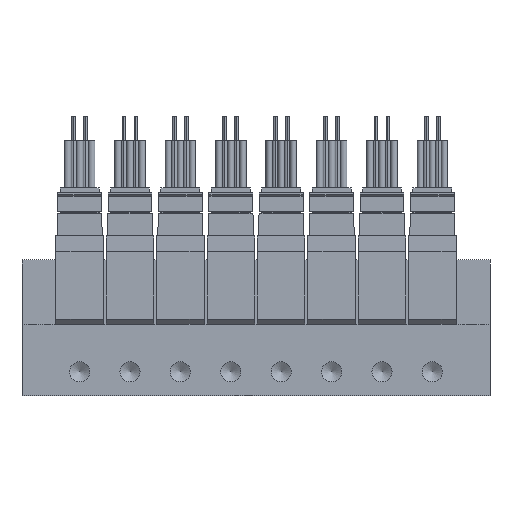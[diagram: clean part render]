
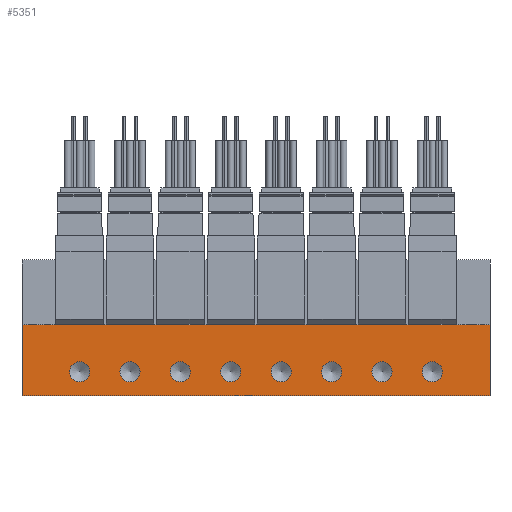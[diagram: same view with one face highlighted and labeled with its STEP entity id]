
A CAD part, front view. The second image highlights one B-rep face of the part: STEP entity #5351.
In plain terms, the highlighted planar face has unit normal (0, -1, 0).
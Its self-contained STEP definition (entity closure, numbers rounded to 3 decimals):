
#5351=ADVANCED_FACE('',(#8630,#8631,#8632,#8633,#8634,#8635,#8636,#8637,#8638),#8639,.F.);
#8630=FACE_BOUND('',#15382,.T.);
#8631=FACE_BOUND('',#15383,.T.);
#8632=FACE_BOUND('',#15384,.T.);
#8633=FACE_BOUND('',#15385,.T.);
#8634=FACE_BOUND('',#15386,.T.);
#8635=FACE_BOUND('',#15387,.T.);
#8636=FACE_BOUND('',#15388,.T.);
#8637=FACE_BOUND('',#15389,.T.);
#8638=FACE_OUTER_BOUND('',#15390,.T.);
#8639=PLANE('',#15391);
#15382=EDGE_LOOP('',(#23977));
#15383=EDGE_LOOP('',(#23978));
#15384=EDGE_LOOP('',(#23979));
#15385=EDGE_LOOP('',(#23980));
#15386=EDGE_LOOP('',(#23981));
#15387=EDGE_LOOP('',(#23982));
#15388=EDGE_LOOP('',(#23983));
#15389=EDGE_LOOP('',(#23984));
#15390=EDGE_LOOP('',(#23985,#23986,#23987,#23988));
#15391=AXIS2_PLACEMENT_3D('',#23989,#23990,#23991);
#23977=ORIENTED_EDGE('',*,*,#49664,.F.);
#23978=ORIENTED_EDGE('',*,*,#49665,.F.);
#23979=ORIENTED_EDGE('',*,*,#49666,.F.);
#23980=ORIENTED_EDGE('',*,*,#49667,.F.);
#23981=ORIENTED_EDGE('',*,*,#49668,.F.);
#23982=ORIENTED_EDGE('',*,*,#49669,.F.);
#23983=ORIENTED_EDGE('',*,*,#49670,.F.);
#23984=ORIENTED_EDGE('',*,*,#49671,.F.);
#23985=ORIENTED_EDGE('',*,*,#49659,.F.);
#23986=ORIENTED_EDGE('',*,*,#49672,.F.);
#23987=ORIENTED_EDGE('',*,*,#49624,.T.);
#23988=ORIENTED_EDGE('',*,*,#49663,.T.);
#23989=CARTESIAN_POINT('',(-97.5,0.,14.8));
#23990=DIRECTION('',(0.0,1.0,0.));
#23991=DIRECTION('',(0.0,0.,1.0));
#49624=EDGE_CURVE('',#57996,#57994,#57997,.T.);
#49659=EDGE_CURVE('',#58059,#58061,#58062,.T.);
#49663=EDGE_CURVE('',#57994,#58061,#58068,.T.);
#49664=EDGE_CURVE('',#58069,#58069,#58070,.T.);
#49665=EDGE_CURVE('',#58071,#58071,#58072,.T.);
#49666=EDGE_CURVE('',#58073,#58073,#58074,.T.);
#49667=EDGE_CURVE('',#58075,#58075,#58076,.T.);
#49668=EDGE_CURVE('',#58077,#58077,#58078,.T.);
#49669=EDGE_CURVE('',#58079,#58079,#58080,.T.);
#49670=EDGE_CURVE('',#58081,#58081,#58082,.T.);
#49671=EDGE_CURVE('',#58083,#58083,#58084,.T.);
#49672=EDGE_CURVE('',#57996,#58059,#58085,.T.);
#57994=VERTEX_POINT('',#72136);
#57996=VERTEX_POINT('',#72139);
#57997=LINE('',#72140,#72141);
#58059=VERTEX_POINT('',#72218);
#58061=VERTEX_POINT('',#72221);
#58062=LINE('',#72222,#72223);
#58068=LINE('',#72230,#72231);
#58069=VERTEX_POINT('',#72232);
#58070=CIRCLE('',#72233,2.1);
#58071=VERTEX_POINT('',#72234);
#58072=CIRCLE('',#72235,2.1);
#58073=VERTEX_POINT('',#72236);
#58074=CIRCLE('',#72237,2.1);
#58075=VERTEX_POINT('',#72238);
#58076=CIRCLE('',#72239,2.1);
#58077=VERTEX_POINT('',#72240);
#58078=CIRCLE('',#72241,2.1);
#58079=VERTEX_POINT('',#72242);
#58080=CIRCLE('',#72243,2.1);
#58081=VERTEX_POINT('',#72244);
#58082=CIRCLE('',#72245,2.1);
#58083=VERTEX_POINT('',#72246);
#58084=CIRCLE('',#72247,2.1);
#58085=LINE('',#72248,#72249);
#72136=CARTESIAN_POINT('',(-97.5,0.0,0.0));
#72139=CARTESIAN_POINT('',(-97.5,0.,14.8));
#72140=CARTESIAN_POINT('',(-97.5,0.,14.8));
#72141=VECTOR('',#92355,1.0);
#72218=CARTESIAN_POINT('',(0.0,0.,14.8));
#72221=CARTESIAN_POINT('',(0.0,0.0,0.0));
#72222=CARTESIAN_POINT('',(0.0,0.,14.8));
#72223=VECTOR('',#92426,1.0);
#72230=CARTESIAN_POINT('',(-97.5,0.0,0.0));
#72231=VECTOR('',#92434,1.0);
#72232=CARTESIAN_POINT('',(-85.5,0.,2.9));
#72233=AXIS2_PLACEMENT_3D('',#92435,#92436,#92437);
#72234=CARTESIAN_POINT('',(-75.0,0.,2.9));
#72235=AXIS2_PLACEMENT_3D('',#92438,#92439,#92440);
#72236=CARTESIAN_POINT('',(-64.5,0.,2.9));
#72237=AXIS2_PLACEMENT_3D('',#92441,#92442,#92443);
#72238=CARTESIAN_POINT('',(-54.0,0.,2.9));
#72239=AXIS2_PLACEMENT_3D('',#92444,#92445,#92446);
#72240=CARTESIAN_POINT('',(-43.5,0.,2.9));
#72241=AXIS2_PLACEMENT_3D('',#92447,#92448,#92449);
#72242=CARTESIAN_POINT('',(-33.0,0.,2.9));
#72243=AXIS2_PLACEMENT_3D('',#92450,#92451,#92452);
#72244=CARTESIAN_POINT('',(-22.5,0.,2.9));
#72245=AXIS2_PLACEMENT_3D('',#92453,#92454,#92455);
#72246=CARTESIAN_POINT('',(-12.0,0.,2.9));
#72247=AXIS2_PLACEMENT_3D('',#92456,#92457,#92458);
#72248=CARTESIAN_POINT('',(-97.5,0.,14.8));
#72249=VECTOR('',#92459,1.0);
#92355=DIRECTION('',(0.0,0.,-1.0));
#92426=DIRECTION('',(0.0,0.,-1.0));
#92434=DIRECTION('',(1.0,0.0,0.0));
#92435=CARTESIAN_POINT('',(-85.5,0.0,5.0));
#92436=DIRECTION('',(0.0,-1.0,0.));
#92437=DIRECTION('',(0.0,0.,-1.0));
#92438=CARTESIAN_POINT('',(-75.0,0.0,5.0));
#92439=DIRECTION('',(0.0,-1.0,0.));
#92440=DIRECTION('',(0.0,0.,-1.0));
#92441=CARTESIAN_POINT('',(-64.5,0.0,5.0));
#92442=DIRECTION('',(0.0,-1.0,0.));
#92443=DIRECTION('',(0.0,0.,-1.0));
#92444=CARTESIAN_POINT('',(-54.0,0.0,5.0));
#92445=DIRECTION('',(0.0,-1.0,0.));
#92446=DIRECTION('',(0.0,0.,-1.0));
#92447=CARTESIAN_POINT('',(-43.5,0.0,5.0));
#92448=DIRECTION('',(0.0,-1.0,0.));
#92449=DIRECTION('',(0.0,0.,-1.0));
#92450=CARTESIAN_POINT('',(-33.0,0.0,5.0));
#92451=DIRECTION('',(0.0,-1.0,0.));
#92452=DIRECTION('',(0.0,0.,-1.0));
#92453=CARTESIAN_POINT('',(-22.5,0.0,5.0));
#92454=DIRECTION('',(0.0,-1.0,0.));
#92455=DIRECTION('',(0.0,0.,-1.0));
#92456=CARTESIAN_POINT('',(-12.0,0.0,5.0));
#92457=DIRECTION('',(0.0,-1.0,0.));
#92458=DIRECTION('',(0.0,0.,-1.0));
#92459=DIRECTION('',(1.0,0.0,0.0));
